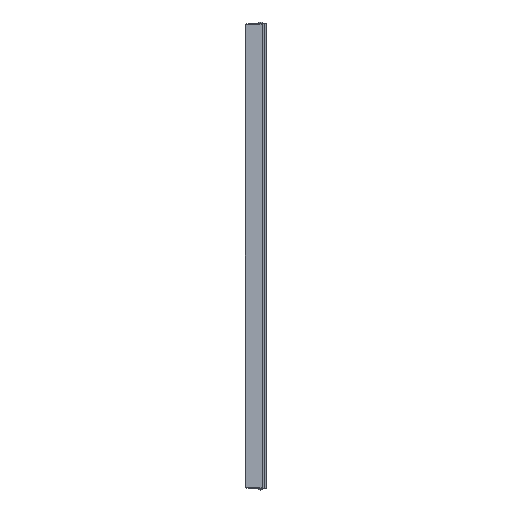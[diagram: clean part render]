
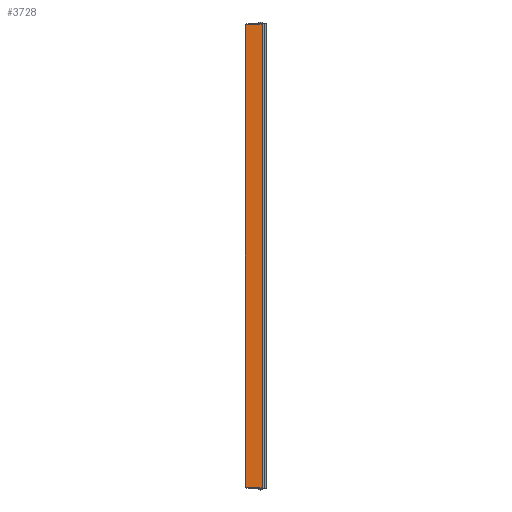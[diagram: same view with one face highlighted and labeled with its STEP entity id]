
A CAD part, left-side view. The second image highlights one B-rep face of the part: STEP entity #3728.
In plain terms, the highlighted planar face has unit normal (-1, 0, 0).
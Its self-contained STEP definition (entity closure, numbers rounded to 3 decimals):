
#185=DIRECTION('',(0.,1.,0.));
#186=VECTOR('',#185,3.3);
#187=CARTESIAN_POINT('',(-19.,13.2,297.));
#188=LINE('',#187,#186);
#417=DIRECTION('',(0.,0.,-1.));
#418=VECTOR('',#417,1.);
#419=CARTESIAN_POINT('',(-19.,13.2,-297.));
#420=LINE('',#419,#418);
#429=DIRECTION('',(0.,1.,0.));
#430=VECTOR('',#429,3.3);
#431=CARTESIAN_POINT('',(-19.,13.2,-297.));
#432=LINE('',#431,#430);
#433=DIRECTION('',(0.,0.,1.));
#434=VECTOR('',#433,1.);
#435=CARTESIAN_POINT('',(-19.,13.2,297.));
#436=LINE('',#435,#434);
#441=DIRECTION('',(0.,0.,1.));
#442=VECTOR('',#441,596.);
#443=CARTESIAN_POINT('',(-19.,-4.3,-298.));
#444=LINE('',#443,#442);
#989=DIRECTION('',(0.,-1.,0.));
#990=VECTOR('',#989,17.5);
#991=CARTESIAN_POINT('',(-19.,13.2,-298.));
#992=LINE('',#991,#990);
#2085=DIRECTION('',(0.,1.,0.));
#2086=VECTOR('',#2085,17.5);
#2087=CARTESIAN_POINT('',(-19.,-4.3,298.));
#2088=LINE('',#2087,#2086);
#2321=DIRECTION('',(0.,0.,-1.));
#2322=VECTOR('',#2321,594.);
#2323=CARTESIAN_POINT('',(-19.,16.5,297.));
#2324=LINE('',#2323,#2322);
#2357=CARTESIAN_POINT('',(-19.,16.5,-297.));
#2358=VERTEX_POINT('',#2357);
#2367=CARTESIAN_POINT('',(-19.,16.5,297.));
#2368=VERTEX_POINT('',#2367);
#2457=CARTESIAN_POINT('',(-19.,13.2,298.));
#2458=VERTEX_POINT('',#2457);
#2663=CARTESIAN_POINT('',(-19.,-4.3,298.));
#2665=VERTEX_POINT('',#2663);
#2745=CARTESIAN_POINT('',(-19.,13.2,297.));
#2747=VERTEX_POINT('',#2745);
#2775=CARTESIAN_POINT('',(-19.,13.2,-298.));
#2777=VERTEX_POINT('',#2775);
#2781=CARTESIAN_POINT('',(-19.,-4.3,-298.));
#2782=VERTEX_POINT('',#2781);
#3011=CARTESIAN_POINT('',(-19.,13.2,-297.));
#3012=VERTEX_POINT('',#3011);
#3709=CARTESIAN_POINT('',(-19.,16.5,-297.));
#3710=DIRECTION('',(-1.,0.,0.));
#3711=DIRECTION('',(0.,-1.,0.));
#3712=AXIS2_PLACEMENT_3D('',#3709,#3710,#3711);
#3713=PLANE('',#3712);
#3715=ORIENTED_EDGE('',*,*,#3714,.F.);
#3717=ORIENTED_EDGE('',*,*,#3716,.F.);
#3718=ORIENTED_EDGE('',*,*,#3700,.F.);
#3719=ORIENTED_EDGE('',*,*,#3126,.T.);
#3721=ORIENTED_EDGE('',*,*,#3720,.F.);
#3722=ORIENTED_EDGE('',*,*,#3356,.F.);
#3723=ORIENTED_EDGE('',*,*,#3545,.T.);
#3725=ORIENTED_EDGE('',*,*,#3724,.F.);
#3726=EDGE_LOOP('',(#3715,#3717,#3718,#3719,#3721,#3722,#3723,#3725));
#3727=FACE_OUTER_BOUND('',#3726,.F.);
#3126=EDGE_CURVE('',#3012,#2358,#432,.T.);
#3356=EDGE_CURVE('',#2747,#2368,#188,.T.);
#3545=EDGE_CURVE('',#2747,#2458,#436,.T.);
#3700=EDGE_CURVE('',#3012,#2777,#420,.T.);
#3714=EDGE_CURVE('',#2782,#2665,#444,.T.);
#3716=EDGE_CURVE('',#2777,#2782,#992,.T.);
#3720=EDGE_CURVE('',#2368,#2358,#2324,.T.);
#3724=EDGE_CURVE('',#2665,#2458,#2088,.T.);
#3728=ADVANCED_FACE('',(#3727),#3713,.T.);
